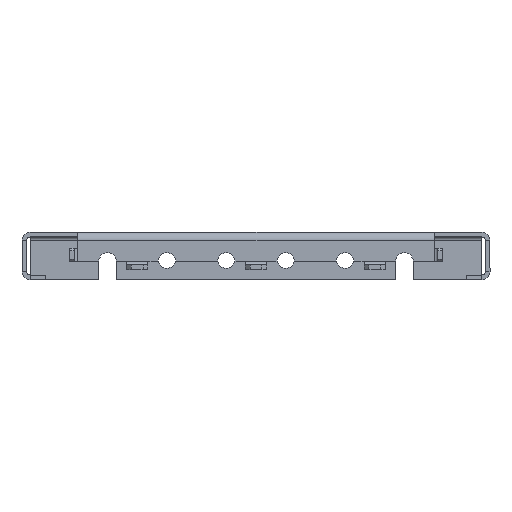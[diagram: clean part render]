
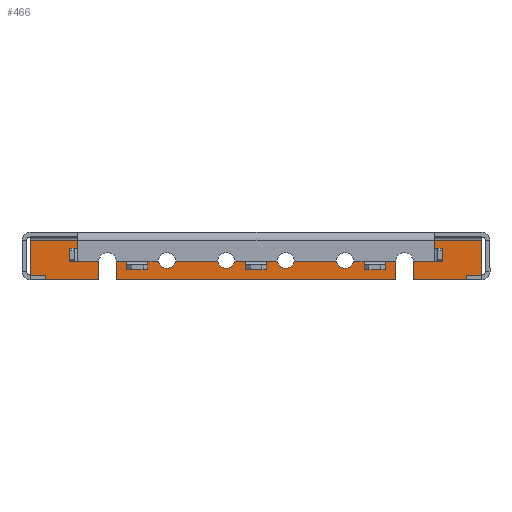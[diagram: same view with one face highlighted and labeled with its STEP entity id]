
A CAD part, left-side view. The second image highlights one B-rep face of the part: STEP entity #466.
In plain terms, the highlighted planar face has unit normal (-1, 0, 0).
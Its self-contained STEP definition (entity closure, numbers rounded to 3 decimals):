
#466=ADVANCED_FACE('',(#3886,#3888,#3890,#3892,#3894),#3896,.F.);
#3886=FACE_BOUND('',#3887,.T.);
#3887=EDGE_LOOP('',(#7557,#7558,#7559,#7560,#7561,#7562,#7563,#7564,#7565,#7566,
#7567,#7568));
#3888=FACE_BOUND('',#3889,.T.);
#3889=EDGE_LOOP('',(#7569));
#3890=FACE_BOUND('',#3891,.T.);
#3891=EDGE_LOOP('',(#7570));
#3892=FACE_BOUND('',#3893,.T.);
#3893=EDGE_LOOP('',(#7571));
#3894=FACE_BOUND('',#3895,.T.);
#3895=EDGE_LOOP('',(#7572));
#3896=PLANE('',#3897);
#3897=AXIS2_PLACEMENT_3D('',#3898,#3899,#3900);
#3898=CARTESIAN_POINT('',(241.15,0.,0.));
#3899=DIRECTION('',(1.,0.,0.));
#3900=DIRECTION('',(0.,0.,-1.));
#7557=ORIENTED_EDGE('',*,*,#10405,.F.);
#7558=ORIENTED_EDGE('',*,*,#10406,.T.);
#7559=ORIENTED_EDGE('',*,*,#10407,.F.);
#7560=ORIENTED_EDGE('',*,*,#10408,.T.);
#7561=ORIENTED_EDGE('',*,*,#10409,.T.);
#7562=ORIENTED_EDGE('',*,*,#10410,.F.);
#7563=ORIENTED_EDGE('',*,*,#10411,.T.);
#7564=ORIENTED_EDGE('',*,*,#10412,.T.);
#7565=ORIENTED_EDGE('',*,*,#10413,.T.);
#7566=ORIENTED_EDGE('',*,*,#10414,.T.);
#7567=ORIENTED_EDGE('',*,*,#10415,.T.);
#7568=ORIENTED_EDGE('',*,*,#10416,.T.);
#7569=ORIENTED_EDGE('',*,*,#9268,.T.);
#7570=ORIENTED_EDGE('',*,*,#9266,.T.);
#7571=ORIENTED_EDGE('',*,*,#9264,.T.);
#7572=ORIENTED_EDGE('',*,*,#9262,.T.);
#9262=EDGE_CURVE('',#10871,#10871,#10872,.T.);
#9264=EDGE_CURVE('',#10875,#10875,#10876,.T.);
#9266=EDGE_CURVE('',#10879,#10879,#10880,.T.);
#9268=EDGE_CURVE('',#10883,#10883,#10884,.T.);
#10405=EDGE_CURVE('',#12937,#12938,#12939,.T.);
#10406=EDGE_CURVE('',#12937,#12940,#12941,.T.);
#10407=EDGE_CURVE('',#12942,#12940,#12943,.T.);
#10408=EDGE_CURVE('',#12942,#12944,#12945,.T.);
#10409=EDGE_CURVE('',#12944,#12946,#12947,.T.);
#10410=EDGE_CURVE('',#12948,#12946,#12949,.T.);
#10411=EDGE_CURVE('',#12948,#12950,#12951,.T.);
#10412=EDGE_CURVE('',#12950,#12952,#12953,.T.);
#10413=EDGE_CURVE('',#12952,#12954,#12955,.T.);
#10414=EDGE_CURVE('',#12954,#12956,#12957,.T.);
#10415=EDGE_CURVE('',#12956,#12958,#12959,.T.);
#10416=EDGE_CURVE('',#12958,#12938,#12960,.T.);
#10871=VERTEX_POINT('',#13530);
#10872=CIRCLE('',#13531,3.65);
#10875=VERTEX_POINT('',#13540);
#10876=CIRCLE('',#13541,3.65);
#10879=VERTEX_POINT('',#13550);
#10880=CIRCLE('',#13551,3.65);
#10883=VERTEX_POINT('',#13560);
#10884=CIRCLE('',#13561,3.65);
#12937=VERTEX_POINT('',#18487);
#12938=VERTEX_POINT('',#18488);
#12939=LINE('',#18489,#18490);
#12940=VERTEX_POINT('',#18492);
#12941=CIRCLE('',#18493,3.65);
#12942=VERTEX_POINT('',#18497);
#12943=LINE('',#18498,#18499);
#12944=VERTEX_POINT('',#18501);
#12945=LINE('',#18502,#18503);
#12946=VERTEX_POINT('',#18505);
#12947=LINE('',#18506,#18507);
#12948=VERTEX_POINT('',#18509);
#12949=LINE('',#18510,#18511);
#12950=VERTEX_POINT('',#18513);
#12951=LINE('',#18514,#18515);
#12952=VERTEX_POINT('',#18517);
#12953=LINE('',#18518,#18519);
#12954=VERTEX_POINT('',#18521);
#12955=LINE('',#18522,#18523);
#12956=VERTEX_POINT('',#18525);
#12957=CIRCLE('',#18526,3.65);
#12958=VERTEX_POINT('',#18530);
#12959=LINE('',#18531,#18532);
#12960=LINE('',#18534,#18535);
#13530=CARTESIAN_POINT('',(241.15,37.5,-15.15));
#13531=AXIS2_PLACEMENT_3D('',#13532,#13533,#13534);
#13532=CARTESIAN_POINT('',(241.15,37.5,-11.5));
#13533=DIRECTION('',(1.,0.,0.));
#13534=DIRECTION('',(0.,0.,1.));
#13540=CARTESIAN_POINT('',(241.15,-37.5,-15.15));
#13541=AXIS2_PLACEMENT_3D('',#13542,#13543,#13544);
#13542=CARTESIAN_POINT('',(241.15,-37.5,-11.5));
#13543=DIRECTION('',(1.,0.,0.));
#13544=DIRECTION('',(0.,0.,1.));
#13550=CARTESIAN_POINT('',(241.15,-12.5,-15.15));
#13551=AXIS2_PLACEMENT_3D('',#13552,#13553,#13554);
#13552=CARTESIAN_POINT('',(241.15,-12.5,-11.5));
#13553=DIRECTION('',(1.,0.,0.));
#13554=DIRECTION('',(0.,0.,1.));
#13560=CARTESIAN_POINT('',(241.15,12.5,-15.15));
#13561=AXIS2_PLACEMENT_3D('',#13562,#13563,#13564);
#13562=CARTESIAN_POINT('',(241.15,12.5,-11.5));
#13563=DIRECTION('',(1.,0.,0.));
#13564=DIRECTION('',(0.,0.,1.));
#18487=CARTESIAN_POINT('',(241.15,-58.85,-11.5));
#18488=CARTESIAN_POINT('',(241.15,-58.85,-20.));
#18489=CARTESIAN_POINT('',(241.15,-58.85,-11.5));
#18490=VECTOR('',#18491,1.);
#18491=DIRECTION('',(0.,0.,-1.));
#18492=CARTESIAN_POINT('',(241.15,-66.15,-11.5));
#18493=AXIS2_PLACEMENT_3D('',#18494,#18495,#18496);
#18494=CARTESIAN_POINT('',(241.15,-62.5,-11.5));
#18495=DIRECTION('',(1.,0.,0.));
#18496=DIRECTION('',(0.,1.,0.));
#18497=CARTESIAN_POINT('',(241.15,-66.15,-20.));
#18498=CARTESIAN_POINT('',(241.15,-66.15,-20.));
#18499=VECTOR('',#18500,1.);
#18500=DIRECTION('',(0.,0.,1.));
#18501=CARTESIAN_POINT('',(241.15,-95.1,-20.));
#18502=CARTESIAN_POINT('',(241.15,-66.15,-20.));
#18503=VECTOR('',#18504,1.);
#18504=DIRECTION('',(0.,-1.,0.));
#18505=CARTESIAN_POINT('',(241.15,-95.1,-3.4));
#18506=CARTESIAN_POINT('',(241.15,-95.1,-20.));
#18507=VECTOR('',#18508,1.);
#18508=DIRECTION('',(0.,0.,1.));
#18509=CARTESIAN_POINT('',(241.15,95.1,-3.4));
#18510=CARTESIAN_POINT('',(241.15,95.1,-3.4));
#18511=VECTOR('',#18512,1.);
#18512=DIRECTION('',(0.,-1.,0.));
#18513=CARTESIAN_POINT('',(241.15,95.1,-20.));
#18514=CARTESIAN_POINT('',(241.15,95.1,-3.4));
#18515=VECTOR('',#18516,1.);
#18516=DIRECTION('',(0.,0.,-1.));
#18517=CARTESIAN_POINT('',(241.15,66.15,-20.));
#18518=CARTESIAN_POINT('',(241.15,95.1,-20.));
#18519=VECTOR('',#18520,1.);
#18520=DIRECTION('',(0.,-1.,0.));
#18521=CARTESIAN_POINT('',(241.15,66.15,-11.5));
#18522=CARTESIAN_POINT('',(241.15,66.15,-20.));
#18523=VECTOR('',#18524,1.);
#18524=DIRECTION('',(0.,0.,1.));
#18525=CARTESIAN_POINT('',(241.15,58.85,-11.5));
#18526=AXIS2_PLACEMENT_3D('',#18527,#18528,#18529);
#18527=CARTESIAN_POINT('',(241.15,62.5,-11.5));
#18528=DIRECTION('',(1.,0.,0.));
#18529=DIRECTION('',(0.,1.,0.));
#18530=CARTESIAN_POINT('',(241.15,58.85,-20.));
#18531=CARTESIAN_POINT('',(241.15,58.85,-11.5));
#18532=VECTOR('',#18533,1.);
#18533=DIRECTION('',(0.,0.,-1.));
#18534=CARTESIAN_POINT('',(241.15,58.85,-20.));
#18535=VECTOR('',#18536,1.);
#18536=DIRECTION('',(0.,-1.,0.));
